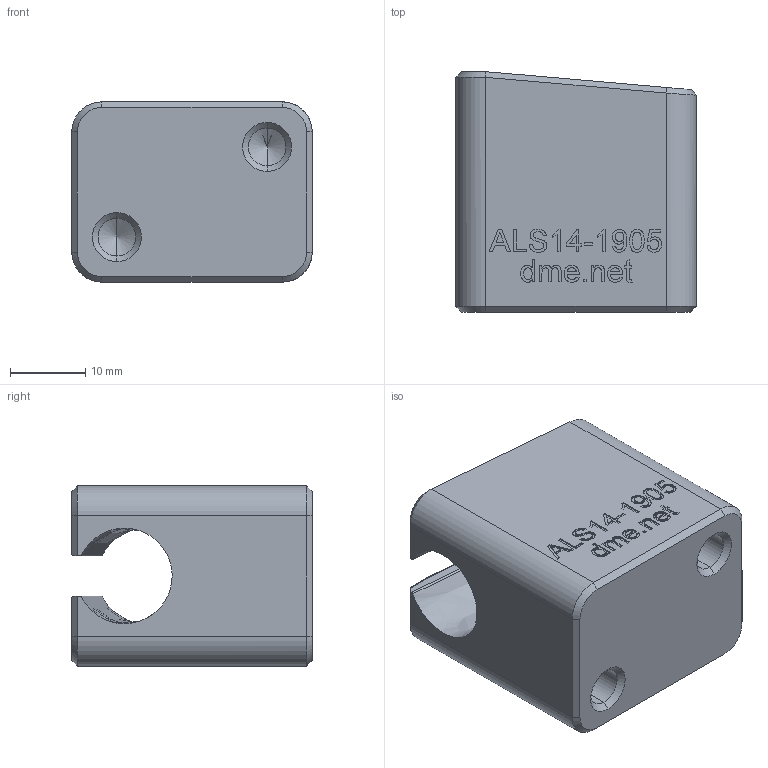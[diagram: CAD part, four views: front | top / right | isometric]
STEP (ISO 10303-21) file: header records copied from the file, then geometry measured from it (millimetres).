
FILE_DESCRIPTION (( 'STEP AP203' ), '1' );
FILE_NAME ('ALS14-1905.STEP', '2021-01-11T12:03:35', ( '' ), ( '' ), 'SwSTEP 2.0', 'SolidWorks 2020', '' );
FILE_SCHEMA (( 'CONFIG_CONTROL_DESIGN' ));
Length unit declared in the file: millimetre
Products named in the file (1): ALS14-1905
Bounding box: 32 x 32 x 24 mm (x, y, z)
Volume: 18609.6 mm3; surface area: 5749.9 mm2
Topology: 1 solids, 1 shells, 275 faces, 721 edges, 470 vertices
Faces by surface type: plane 146, bspline 101, cone 14, cylinder 14
Entity records: 13941 total; most frequent: CARTESIAN_POINT 7837, ORIENTED_EDGE 1434, DIRECTION 872, EDGE_CURVE 717, VECTOR 474, LINE 474, VERTEX_POINT 470, EDGE_LOOP 301
